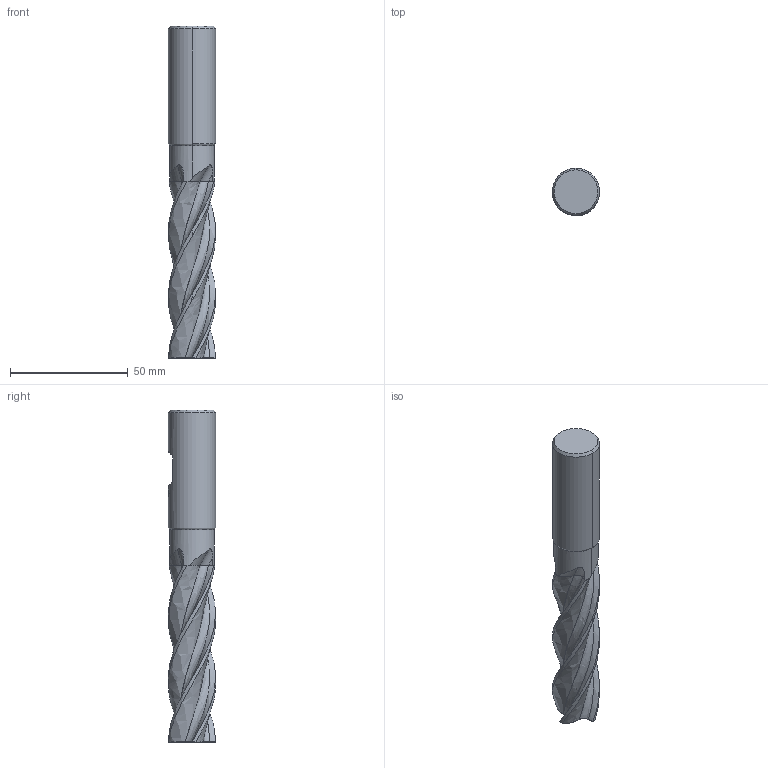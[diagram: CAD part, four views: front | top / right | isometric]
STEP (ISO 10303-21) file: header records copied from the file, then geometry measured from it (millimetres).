
FILE_DESCRIPTION(('no description'),'unknown implementation level');
FILE_NAME('solid7PzMzKFebpKMpgb2O7UsfPJtsts_1.STP',' ',('CIMSOURCE GmbH'),('CADClick - KiM GmbH - www.kimweb.de'),'unknown preprocess','ACIS','unknown authorization');
FILE_SCHEMA(('automotive_design'));
Length unit declared in the file: millimetre
Products named in the file (2): NOCUT; CUT
Bounding box: 20 x 20 x 141 mm (x, y, z)
Volume: 32444 mm3; surface area: 14444.2 mm2
Topology: 2 solids, 2 shells, 127 faces, 360 edges, 236 vertices
Faces by surface type: bspline 48, cone 26, plane 26, cylinder 15, revolution 12
Entity records: 25844 total; most frequent: CARTESIAN_POINT 18983, STYLED_ITEM 725, PRESENTATION_STYLE_ASSIGNMENT 725, COLOUR_RGB 725, ORIENTED_EDGE 720, DIRECTION 395, EDGE_CURVE 360, CURVE_STYLE 360
